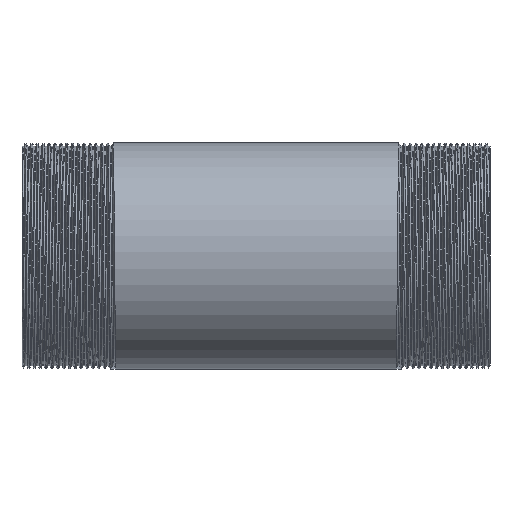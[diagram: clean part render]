
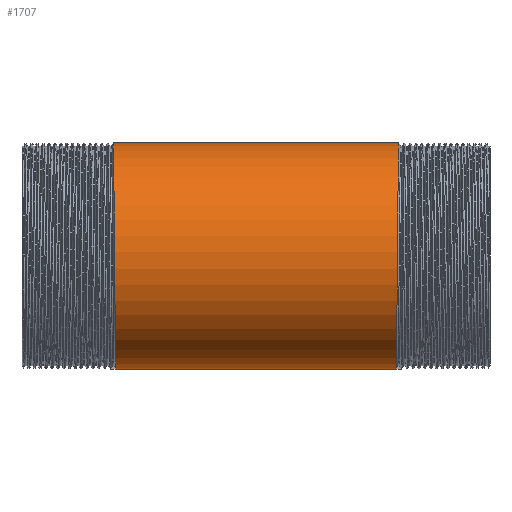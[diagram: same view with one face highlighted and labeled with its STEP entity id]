
A CAD part, front view. The second image highlights one B-rep face of the part: STEP entity #1707.
In plain terms, the highlighted cylindrical face has radius 24.15 mm (diameter 48.3 mm), a partial arc.
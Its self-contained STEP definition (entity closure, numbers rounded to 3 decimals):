
#348 = CARTESIAN_POINT ( 'NONE',  ( -149.494, 0., -24.15 ) ) ;
#466 = CARTESIAN_POINT ( 'NONE',  ( 30.531, 0., 24.15 ) ) ;
#474 = CYLINDRICAL_SURFACE ( 'NONE', #4935, 24.15 ) ;
#534 = VERTEX_POINT ( 'NONE', #9417 ) ;
#898 = ORIENTED_EDGE ( 'NONE', *, *, #8110, .F. ) ;
#1148 = CARTESIAN_POINT ( 'NONE',  ( 30.531, 0., 24.15 ) ) ;
#1707 = ADVANCED_FACE ( 'NONE', ( #13549 ), #474, .T. ) ;
#2023 = CARTESIAN_POINT ( 'NONE',  ( -29.906, 0., -24.15 ) ) ;
#3806 = CARTESIAN_POINT ( 'NONE',  ( 30.375, -17.077, 17.077 ) ) ;
#4089 = EDGE_CURVE ( 'NONE', #8109, #11285, #5403, .T. ) ;
#4281 = EDGE_CURVE ( 'NONE', #534, #8109, #10813, .T. ) ;
#4391 = ORIENTED_EDGE ( 'NONE', *, *, #13756, .F. ) ;
#4465 = CARTESIAN_POINT ( 'NONE',  ( -30.531, 0., 24.15 ) ) ;
#4832 = CARTESIAN_POINT ( 'NONE',  ( -149.494, 0., 0. ) ) ;
#4935 = AXIS2_PLACEMENT_3D ( 'NONE', #4832, #12742, #5041 ) ;
#5041 = DIRECTION ( 'NONE',  ( 0., 0., 1. ) ) ;
#5171 = ORIENTED_EDGE ( 'NONE', *, *, #4089, .T. ) ;
#5403 = LINE ( 'NONE', #10915, #7019 ) ;
#5598 = CARTESIAN_POINT ( 'NONE',  ( -30.141, -24.15, -10.003 ) ) ;
#5743 = CARTESIAN_POINT ( 'NONE',  ( -30.297, -24.15, 10.003 ) ) ;
#5870 = DIRECTION ( 'NONE',  ( -1., 0., 0. ) ) ;
#5918 = CARTESIAN_POINT ( 'NONE',  ( 30.219, -24.15, 0. ) ) ;
#6121 = CARTESIAN_POINT ( 'NONE',  ( 29.906, 0., -24.15 ) ) ;
#6531 = CARTESIAN_POINT ( 'NONE',  ( -29.906, 0., -24.15 ) ) ;
#6628 = VECTOR ( 'NONE', #5870, 1000. ) ;
#6685 = CARTESIAN_POINT ( 'NONE',  ( -30.063, -17.077, -17.077 ) ) ;
#6878 = VERTEX_POINT ( 'NONE', #2023 ) ;
#6929 =( BOUNDED_CURVE ( )  B_SPLINE_CURVE ( 2, ( #6531, #13210, #6685, #5598, #12280, #5743, #9946, #7619, #8933 ),
 .UNSPECIFIED., .F., .F. ) 
 B_SPLINE_CURVE_WITH_KNOTS ( ( 3, 2, 2, 2, 3 ),
 ( 0., 0.006, 0.013, 0.019, 0.025 ),
 .UNSPECIFIED. ) 
 CURVE ( )  GEOMETRIC_REPRESENTATION_ITEM ( )  RATIONAL_B_SPLINE_CURVE ( ( 1., 0.924, 1., 0.924, 1., 0.924, 1., 0.924, 1. ) ) 
 REPRESENTATION_ITEM ( '' )  );
#7019 = VECTOR ( 'NONE', #8594, 1000. ) ;
#7216 = CARTESIAN_POINT ( 'NONE',  ( 29.984, -10.003, -24.15 ) ) ;
#7619 = CARTESIAN_POINT ( 'NONE',  ( -30.453, -10.003, 24.15 ) ) ;
#7903 = LINE ( 'NONE', #348, #6628 ) ;
#8109 = VERTEX_POINT ( 'NONE', #1148 ) ;
#8110 = EDGE_CURVE ( 'NONE', #534, #6878, #7903, .T. ) ;
#8594 = DIRECTION ( 'NONE',  ( -1., 0., 0. ) ) ;
#8933 = CARTESIAN_POINT ( 'NONE',  ( -30.531, 0., 24.15 ) ) ;
#9169 = CARTESIAN_POINT ( 'NONE',  ( 30.453, -10.003, 24.15 ) ) ;
#9417 = CARTESIAN_POINT ( 'NONE',  ( 29.906, 0., -24.15 ) ) ;
#9946 = CARTESIAN_POINT ( 'NONE',  ( -30.375, -17.077, 17.077 ) ) ;
#10391 = ORIENTED_EDGE ( 'NONE', *, *, #4281, .T. ) ;
#10813 =( BOUNDED_CURVE ( )  B_SPLINE_CURVE ( 2, ( #6121, #7216, #11354, #12665, #5918, #12451, #3806, #9169, #466 ),
 .UNSPECIFIED., .F., .F. ) 
 B_SPLINE_CURVE_WITH_KNOTS ( ( 3, 2, 2, 2, 3 ),
 ( 0., 0.006, 0.013, 0.019, 0.025 ),
 .UNSPECIFIED. ) 
 CURVE ( )  GEOMETRIC_REPRESENTATION_ITEM ( )  RATIONAL_B_SPLINE_CURVE ( ( 1., 0.924, 1., 0.924, 1., 0.924, 1., 0.924, 1. ) ) 
 REPRESENTATION_ITEM ( '' )  );
#10915 = CARTESIAN_POINT ( 'NONE',  ( -149.494, 0., 24.15 ) ) ;
#11285 = VERTEX_POINT ( 'NONE', #4465 ) ;
#11354 = CARTESIAN_POINT ( 'NONE',  ( 30.063, -17.077, -17.077 ) ) ;
#12280 = CARTESIAN_POINT ( 'NONE',  ( -30.219, -24.15, 0. ) ) ;
#12451 = CARTESIAN_POINT ( 'NONE',  ( 30.297, -24.15, 10.003 ) ) ;
#12665 = CARTESIAN_POINT ( 'NONE',  ( 30.141, -24.15, -10.003 ) ) ;
#12742 = DIRECTION ( 'NONE',  ( -1., 0., 0. ) ) ;
#13210 = CARTESIAN_POINT ( 'NONE',  ( -29.984, -10.003, -24.15 ) ) ;
#13549 = FACE_OUTER_BOUND ( 'NONE', #13869, .T. ) ;
#13756 = EDGE_CURVE ( 'NONE', #6878, #11285, #6929, .T. ) ;
#13869 = EDGE_LOOP ( 'NONE', ( #898, #10391, #5171, #4391 ) ) ;
